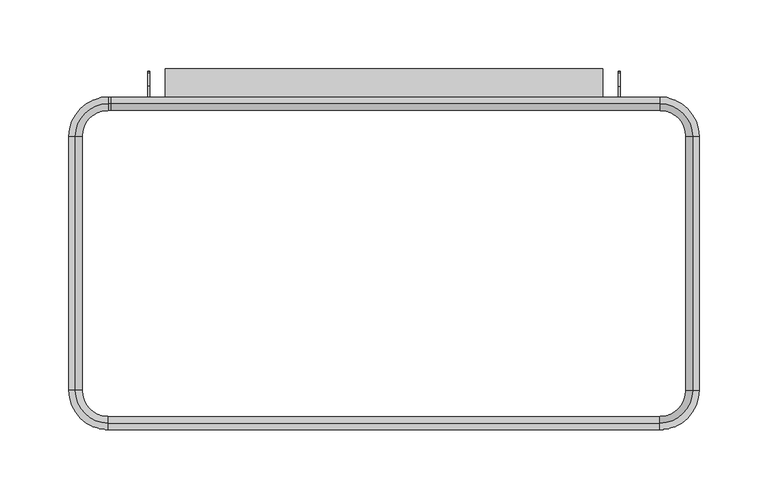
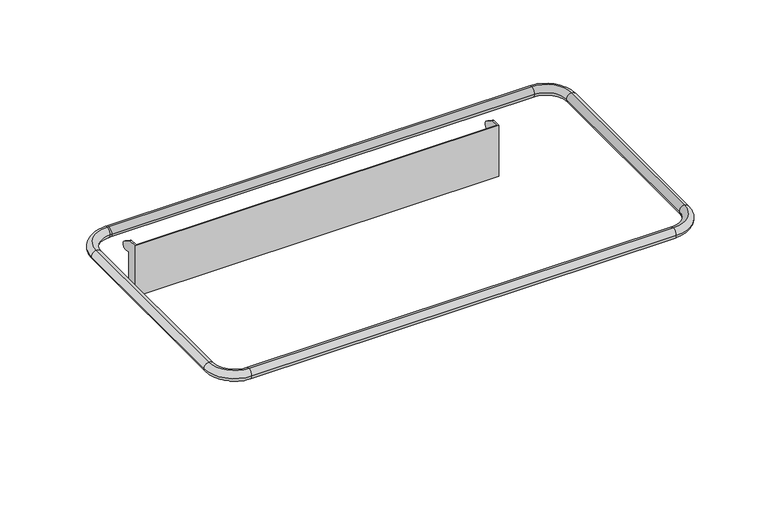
"""IFC4 building model written with IfcOpenShell, lengths in millimetres: furniture geometry."""

from ifc_helpers import new_model, si_unit, point, frame, origin, place, context, project, spatial, circle_curve, ellipse_curve, trimmed, source, transform, mapped, element, save
from ifc_brep_helpers import plane_surface, cylinder_surface, revolved_surface, advanced_brep


def furniture_1b205687(model_context):
    return source(origin(), model_context, "Body", "AdvancedBrep", [
        advanced_brep(
        [(-200.025, 74.6851276, 1258.9192846), (-223.8375, 50.8726276, 1258.9192846), (-219.075, 50.8726276, 1254.1567846), (-200.025, 69.9226276, 1254.1567846), (-200.025, 79.4476276, 1254.1567846), (-228.6, 50.8726276, 1254.1567846), (-200.025, 74.6851276, 1249.3942846), (-223.8375, 50.8726276, 1249.3942846), (-198.2944343, 69.9226276, 1254.1567846), (-198.2944343, 74.6851276, 1258.9192846), (-198.2944343, 79.4476276, 1254.1567846), (-198.2944343, 74.6851276, 1249.3942846), (200.025, 69.9226276, 1254.1567846), (200.025, 74.6851276, 1258.9192846), (200.025, 79.4476276, 1254.1567846), (200.025, 74.6851276, 1249.3942846), (223.8375, 50.8726276, 1258.9192846), (219.075, 50.8726276, 1254.1567846), (228.6, 50.8726276, 1254.1567846), (223.8375, 50.8726276, 1249.3942846), (219.075, -133.2773724, 1254.1567846), (223.8375, -133.2773724, 1258.9192846), (228.6, -133.2773724, 1254.1567846), (223.8375, -133.2773724, 1249.3942846), (200.025, -157.0898724, 1258.9192846), (200.025, -152.3273724, 1254.1567846), (200.025, -161.8523724, 1254.1567846), (200.025, -157.0898724, 1249.3942846), (-200.025, -152.3273724, 1254.1567846), (-200.025, -157.0898724, 1258.9192846), (-200.025, -161.8523724, 1254.1567846), (-200.025, -157.0898724, 1249.3942846), (-223.8375, -133.2773724, 1258.9192846), (-219.075, -133.2773724, 1254.1567846), (-228.6, -133.2773724, 1254.1567846), (-223.8375, -133.2773724, 1249.3942846)],
        [
            (0, 1, circle_curve(frame((-200.025, 50.8726276, 1258.9192846), z_axis=(0.0, 0.0, 1.0), x_axis=(-1.0, 0.0, 0.0)), 23.8125)),
            (1, 2, circle_curve(frame((-223.8375, 50.8726276, 1254.1567846), z_axis=(0.0, 1.0, 0.0), x_axis=(-1.0, 0.0, 0.0)), 4.7625)),
            (2, 3, circle_curve(frame((-200.025, 50.8726276, 1254.1567846), z_axis=(0.0, 0.0, -1.0), x_axis=(-1.0, 0.0, 0.0)), 19.05)),
            (3, 0, circle_curve(frame((-200.025, 74.6851276, 1254.1567846), z_axis=(-1.0, 0.0, 0.0), x_axis=(0.0, 1.0, 0.0)), 4.7625)),
            (4, 5, circle_curve(frame((-200.025, 50.8726276, 1254.1567846), z_axis=(0.0, 0.0, 1.0), x_axis=(-1.0, 0.0, 0.0)), 28.575)),
            (5, 1, circle_curve(frame((-223.8375, 50.8726276, 1254.1567846), z_axis=(0.0, 1.0, 0.0), x_axis=(-1.0, 0.0, 0.0)), 4.7625)),
            (0, 4, circle_curve(frame((-200.025, 74.6851276, 1254.1567846), z_axis=(-1.0, 0.0, 0.0), x_axis=(0.0, 1.0, 0.0)), 4.7625)),
            (6, 7, circle_curve(frame((-200.025, 50.8726276, 1249.3942846), z_axis=(0.0, 0.0, 1.0), x_axis=(-1.0, 0.0, 0.0)), 23.8125)),
            (7, 5, circle_curve(frame((-223.8375, 50.8726276, 1254.1567846), z_axis=(0.0, 1.0, 0.0), x_axis=(-1.0, 0.0, 0.0)), 4.7625)),
            (4, 6, circle_curve(frame((-200.025, 74.6851276, 1254.1567846), z_axis=(-1.0, 0.0, 0.0), x_axis=(0.0, 1.0, 0.0)), 4.7625)),
            (2, 7, circle_curve(frame((-223.8375, 50.8726276, 1254.1567846), z_axis=(0.0, 1.0, 0.0), x_axis=(-1.0, 0.0, 0.0)), 4.7625)),
            (6, 3, circle_curve(frame((-200.025, 74.6851276, 1254.1567846), z_axis=(-1.0, 0.0, 0.0), x_axis=(0.0, 1.0, 0.0)), 4.7625)),
            (3, 8),
            (8, 9, circle_curve(frame((-198.2944343, 74.6851276, 1254.1567846), z_axis=(-1.0, 0.0, 0.0), x_axis=(0.0, 1.0, 0.0)), 4.7625)),
            (9, 0),
            (9, 10, circle_curve(frame((-198.2944343, 74.6851276, 1254.1567846), z_axis=(-1.0, 0.0, 0.0), x_axis=(0.0, 1.0, 0.0)), 4.7625)),
            (10, 4),
            (10, 11, circle_curve(frame((-198.2944343, 74.6851276, 1254.1567846), z_axis=(-1.0, 0.0, 0.0), x_axis=(0.0, 1.0, 0.0)), 4.7625)),
            (11, 6),
            (11, 8, circle_curve(frame((-198.2944343, 74.6851276, 1254.1567846), z_axis=(-1.0, 0.0, 0.0), x_axis=(0.0, 1.0, 0.0)), 4.7625)),
            (8, 12),
            (12, 13, circle_curve(frame((200.025, 74.6851276, 1254.1567846), z_axis=(-1.0, 0.0, 0.0), x_axis=(0.0, 1.0, 0.0)), 4.7625)),
            (13, 9),
            (13, 14, circle_curve(frame((200.025, 74.6851276, 1254.1567846), z_axis=(-1.0, 0.0, 0.0), x_axis=(0.0, 1.0, 0.0)), 4.7625)),
            (14, 10),
            (14, 15, circle_curve(frame((200.025, 74.6851276, 1254.1567846), z_axis=(-1.0, 0.0, 0.0), x_axis=(0.0, 1.0, 0.0)), 4.7625)),
            (15, 11),
            (15, 12, circle_curve(frame((200.025, 74.6851276, 1254.1567846), z_axis=(-1.0, 0.0, 0.0), x_axis=(0.0, 1.0, 0.0)), 4.7625)),
            (16, 13, circle_curve(frame((200.025, 50.8726276, 1258.9192846), z_axis=(0.0, 0.0, 1.0), x_axis=(0.0, 1.0, 0.0)), 23.8125)),
            (12, 17, circle_curve(frame((200.025, 50.8726276, 1254.1567846), z_axis=(0.0, 0.0, -1.0), x_axis=(0.0, 1.0, 0.0)), 19.05)),
            (17, 16, circle_curve(frame((223.8375, 50.8726276, 1254.1567846), z_axis=(0.0, 1.0, 0.0), x_axis=(1.0, 0.0, 0.0)), 4.7625)),
            (18, 14, circle_curve(frame((200.025, 50.8726276, 1254.1567846), z_axis=(0.0, 0.0, 1.0), x_axis=(0.0, 1.0, 0.0)), 28.575)),
            (16, 18, circle_curve(frame((223.8375, 50.8726276, 1254.1567846), z_axis=(0.0, 1.0, 0.0), x_axis=(1.0, 0.0, 0.0)), 4.7625)),
            (19, 15, circle_curve(frame((200.025, 50.8726276, 1249.3942846), z_axis=(0.0, 0.0, 1.0), x_axis=(0.0, 1.0, 0.0)), 23.8125)),
            (18, 19, circle_curve(frame((223.8375, 50.8726276, 1254.1567846), z_axis=(0.0, 1.0, 0.0), x_axis=(1.0, 0.0, 0.0)), 4.7625)),
            (19, 17, circle_curve(frame((223.8375, 50.8726276, 1254.1567846), z_axis=(0.0, 1.0, 0.0), x_axis=(1.0, 0.0, 0.0)), 4.7625)),
            (17, 20),
            (20, 21, circle_curve(frame((223.8375, -133.2773724, 1254.1567846), z_axis=(0.0, 1.0, 0.0), x_axis=(1.0, 0.0, 0.0)), 4.7625)),
            (21, 16),
            (21, 22, circle_curve(frame((223.8375, -133.2773724, 1254.1567846), z_axis=(0.0, 1.0, 0.0), x_axis=(1.0, 0.0, 0.0)), 4.7625)),
            (22, 18),
            (22, 23, circle_curve(frame((223.8375, -133.2773724, 1254.1567846), z_axis=(0.0, 1.0, 0.0), x_axis=(1.0, 0.0, 0.0)), 4.7625)),
            (23, 19),
            (23, 20, circle_curve(frame((223.8375, -133.2773724, 1254.1567846), z_axis=(0.0, 1.0, 0.0), x_axis=(1.0, 0.0, 0.0)), 4.7625)),
            (24, 21, circle_curve(frame((200.025, -133.2773724, 1258.9192846), z_axis=(0.0, 0.0, 1.0), x_axis=(1.0, 0.0, 0.0)), 23.8125)),
            (20, 25, circle_curve(frame((200.025, -133.2773724, 1254.1567846), z_axis=(0.0, 0.0, -1.0), x_axis=(1.0, 0.0, 0.0)), 19.05)),
            (25, 24, circle_curve(frame((200.025, -157.0898724, 1254.1567846), z_axis=(1.0, 0.0, 0.0), x_axis=(0.0, -1.0, 0.0)), 4.7625)),
            (26, 22, circle_curve(frame((200.025, -133.2773724, 1254.1567846), z_axis=(0.0, 0.0, 1.0), x_axis=(1.0, 0.0, 0.0)), 28.575)),
            (24, 26, circle_curve(frame((200.025, -157.0898724, 1254.1567846), z_axis=(1.0, 0.0, 0.0), x_axis=(0.0, -1.0, 0.0)), 4.7625)),
            (27, 23, circle_curve(frame((200.025, -133.2773724, 1249.3942846), z_axis=(0.0, 0.0, 1.0), x_axis=(1.0, 0.0, 0.0)), 23.8125)),
            (26, 27, circle_curve(frame((200.025, -157.0898724, 1254.1567846), z_axis=(1.0, 0.0, 0.0), x_axis=(0.0, -1.0, 0.0)), 4.7625)),
            (27, 25, circle_curve(frame((200.025, -157.0898724, 1254.1567846), z_axis=(1.0, 0.0, 0.0), x_axis=(0.0, -1.0, 0.0)), 4.7625)),
            (25, 28),
            (28, 29, circle_curve(frame((-200.025, -157.0898724, 1254.1567846), z_axis=(1.0, 0.0, 0.0), x_axis=(0.0, -1.0, 0.0)), 4.7625)),
            (29, 24),
            (29, 30, circle_curve(frame((-200.025, -157.0898724, 1254.1567846), z_axis=(1.0, 0.0, 0.0), x_axis=(0.0, -1.0, 0.0)), 4.7625)),
            (30, 26),
            (30, 31, circle_curve(frame((-200.025, -157.0898724, 1254.1567846), z_axis=(1.0, 0.0, 0.0), x_axis=(0.0, -1.0, 0.0)), 4.7625)),
            (31, 27),
            (31, 28, circle_curve(frame((-200.025, -157.0898724, 1254.1567846), z_axis=(1.0, 0.0, 0.0), x_axis=(0.0, -1.0, 0.0)), 4.7625)),
            (32, 29, circle_curve(frame((-200.025, -133.2773724, 1258.9192846), z_axis=(0.0, 0.0, 1.0), x_axis=(0.0, -1.0, 0.0)), 23.8125)),
            (28, 33, circle_curve(frame((-200.025, -133.2773724, 1254.1567846), z_axis=(0.0, 0.0, -1.0), x_axis=(0.0, -1.0, 0.0)), 19.05)),
            (33, 32, circle_curve(frame((-223.8375, -133.2773724, 1254.1567846), z_axis=(0.0, -1.0, 0.0), x_axis=(-1.0, 0.0, 0.0)), 4.7625)),
            (34, 30, circle_curve(frame((-200.025, -133.2773724, 1254.1567846), z_axis=(0.0, 0.0, 1.0), x_axis=(0.0, -1.0, 0.0)), 28.575)),
            (32, 34, circle_curve(frame((-223.8375, -133.2773724, 1254.1567846), z_axis=(0.0, -1.0, 0.0), x_axis=(-1.0, 0.0, 0.0)), 4.7625)),
            (35, 31, circle_curve(frame((-200.025, -133.2773724, 1249.3942846), z_axis=(0.0, 0.0, 1.0), x_axis=(0.0, -1.0, 0.0)), 23.8125)),
            (34, 35, circle_curve(frame((-223.8375, -133.2773724, 1254.1567846), z_axis=(0.0, -1.0, 0.0), x_axis=(-1.0, 0.0, 0.0)), 4.7625)),
            (35, 33, circle_curve(frame((-223.8375, -133.2773724, 1254.1567846), z_axis=(0.0, -1.0, 0.0), x_axis=(-1.0, 0.0, 0.0)), 4.7625)),
            (33, 2),
            (1, 32),
            (5, 34),
            (7, 35),
        ],
        [
            revolved_surface(trimmed(ellipse_curve(frame((-223.8375, 50.8726276, 1254.1567846), z_axis=(0.0, -1.0, 0.0), x_axis=(-1.0, 0.0, 0.0)), 4.7625, 4.7625), [point((-219.075, 50.8726276, 1254.1567846))], [point((-223.8375, 50.8726276, 1258.9192846))], True, "CARTESIAN"), (-200.025, 50.8726276, 0.0), (0.0, 0.0, -1.0)),
            revolved_surface(trimmed(ellipse_curve(frame((-223.8375, 50.8726276, 1254.1567846), z_axis=(0.0, -1.0, 0.0), x_axis=(-1.0, 0.0, 0.0)), 4.7625, 4.7625), [point((-223.8375, 50.8726276, 1258.9192846))], [point((-228.6, 50.8726276, 1254.1567846))], True, "CARTESIAN"), (-200.025, 50.8726276, 0.0), (0.0, 0.0, -1.0)),
            revolved_surface(trimmed(ellipse_curve(frame((-223.8375, 50.8726276, 1254.1567846), z_axis=(0.0, -1.0, 0.0), x_axis=(-1.0, 0.0, 0.0)), 4.7625, 4.7625), [point((-228.6, 50.8726276, 1254.1567846))], [point((-223.8375, 50.8726276, 1249.3942846))], True, "CARTESIAN"), (-200.025, 50.8726276, 0.0), (0.0, 0.0, -1.0)),
            revolved_surface(trimmed(ellipse_curve(frame((-223.8375, 50.8726276, 1254.1567846), z_axis=(0.0, -1.0, 0.0), x_axis=(-1.0, 0.0, 0.0)), 4.7625, 4.7625), [point((-223.8375, 50.8726276, 1249.3942846))], [point((-219.075, 50.8726276, 1254.1567846))], True, "CARTESIAN"), (-200.025, 50.8726276, 0.0), (0.0, 0.0, -1.0)),
            cylinder_surface(frame((-200.025, 74.6851276, 1254.1567846), z_axis=(-1.0, 0.0, 0.0), x_axis=(0.0, 1.0, 0.0)), 4.7625),
            cylinder_surface(frame((-198.2944343, 74.6851276, 1254.1567846), z_axis=(-1.0, 0.0, 0.0), x_axis=(0.0, 1.0, 0.0)), 4.7625),
            revolved_surface(trimmed(ellipse_curve(frame((200.025, 74.6851276, 1254.1567846), z_axis=(-1.0, 0.0, 0.0), x_axis=(0.0, 1.0, 0.0)), 4.7625, 4.7625), [point((200.025, 69.9226276, 1254.1567846))], [point((200.025, 74.6851276, 1258.9192846))], True, "CARTESIAN"), (200.025, 50.8726276, 0.0), (0.0, 0.0, -1.0)),
            revolved_surface(trimmed(ellipse_curve(frame((200.025, 74.6851276, 1254.1567846), z_axis=(-1.0, 0.0, 0.0), x_axis=(0.0, 1.0, 0.0)), 4.7625, 4.7625), [point((200.025, 74.6851276, 1258.9192846))], [point((200.025, 79.4476276, 1254.1567846))], True, "CARTESIAN"), (200.025, 50.8726276, 0.0), (0.0, 0.0, -1.0)),
            revolved_surface(trimmed(ellipse_curve(frame((200.025, 74.6851276, 1254.1567846), z_axis=(-1.0, 0.0, 0.0), x_axis=(0.0, 1.0, 0.0)), 4.7625, 4.7625), [point((200.025, 79.4476276, 1254.1567846))], [point((200.025, 74.6851276, 1249.3942846))], True, "CARTESIAN"), (200.025, 50.8726276, 0.0), (0.0, 0.0, -1.0)),
            revolved_surface(trimmed(ellipse_curve(frame((200.025, 74.6851276, 1254.1567846), z_axis=(-1.0, 0.0, 0.0), x_axis=(0.0, 1.0, 0.0)), 4.7625, 4.7625), [point((200.025, 74.6851276, 1249.3942846))], [point((200.025, 69.9226276, 1254.1567846))], True, "CARTESIAN"), (200.025, 50.8726276, 0.0), (0.0, 0.0, -1.0)),
            cylinder_surface(frame((223.8375, 50.8726276, 1254.1567846), z_axis=(0.0, 1.0, 0.0), x_axis=(1.0, 0.0, 0.0)), 4.7625),
            revolved_surface(trimmed(ellipse_curve(frame((223.8375, -133.2773724, 1254.1567846), z_axis=(0.0, 1.0, 0.0), x_axis=(1.0, 0.0, 0.0)), 4.7625, 4.7625), [point((219.075, -133.2773724, 1254.1567846))], [point((223.8375, -133.2773724, 1258.9192846))], True, "CARTESIAN"), (200.025, -133.2773724, 0.0), (0.0, 0.0, -1.0)),
            revolved_surface(trimmed(ellipse_curve(frame((223.8375, -133.2773724, 1254.1567846), z_axis=(0.0, 1.0, 0.0), x_axis=(1.0, 0.0, 0.0)), 4.7625, 4.7625), [point((223.8375, -133.2773724, 1258.9192846))], [point((228.6, -133.2773724, 1254.1567846))], True, "CARTESIAN"), (200.025, -133.2773724, 0.0), (0.0, 0.0, -1.0)),
            revolved_surface(trimmed(ellipse_curve(frame((223.8375, -133.2773724, 1254.1567846), z_axis=(0.0, 1.0, 0.0), x_axis=(1.0, 0.0, 0.0)), 4.7625, 4.7625), [point((228.6, -133.2773724, 1254.1567846))], [point((223.8375, -133.2773724, 1249.3942846))], True, "CARTESIAN"), (200.025, -133.2773724, 0.0), (0.0, 0.0, -1.0)),
            revolved_surface(trimmed(ellipse_curve(frame((223.8375, -133.2773724, 1254.1567846), z_axis=(0.0, 1.0, 0.0), x_axis=(1.0, 0.0, 0.0)), 4.7625, 4.7625), [point((223.8375, -133.2773724, 1249.3942846))], [point((219.075, -133.2773724, 1254.1567846))], True, "CARTESIAN"), (200.025, -133.2773724, 0.0), (0.0, 0.0, -1.0)),
            cylinder_surface(frame((200.025, -157.0898724, 1254.1567846), z_axis=(1.0, 0.0, 0.0), x_axis=(0.0, -1.0, 0.0)), 4.7625),
            revolved_surface(trimmed(ellipse_curve(frame((-200.025, -157.0898724, 1254.1567846), z_axis=(1.0, 0.0, 0.0), x_axis=(0.0, -1.0, 0.0)), 4.7625, 4.7625), [point((-200.025, -152.3273724, 1254.1567846))], [point((-200.025, -157.0898724, 1258.9192846))], True, "CARTESIAN"), (-200.025, -133.2773724, 0.0), (0.0, 0.0, -1.0)),
            revolved_surface(trimmed(ellipse_curve(frame((-200.025, -157.0898724, 1254.1567846), z_axis=(1.0, 0.0, 0.0), x_axis=(0.0, -1.0, 0.0)), 4.7625, 4.7625), [point((-200.025, -157.0898724, 1258.9192846))], [point((-200.025, -161.8523724, 1254.1567846))], True, "CARTESIAN"), (-200.025, -133.2773724, 0.0), (0.0, 0.0, -1.0)),
            revolved_surface(trimmed(ellipse_curve(frame((-200.025, -157.0898724, 1254.1567846), z_axis=(1.0, 0.0, 0.0), x_axis=(0.0, -1.0, 0.0)), 4.7625, 4.7625), [point((-200.025, -161.8523724, 1254.1567846))], [point((-200.025, -157.0898724, 1249.3942846))], True, "CARTESIAN"), (-200.025, -133.2773724, 0.0), (0.0, 0.0, -1.0)),
            revolved_surface(trimmed(ellipse_curve(frame((-200.025, -157.0898724, 1254.1567846), z_axis=(1.0, 0.0, 0.0), x_axis=(0.0, -1.0, 0.0)), 4.7625, 4.7625), [point((-200.025, -157.0898724, 1249.3942846))], [point((-200.025, -152.3273724, 1254.1567846))], True, "CARTESIAN"), (-200.025, -133.2773724, 0.0), (0.0, 0.0, -1.0)),
            cylinder_surface(frame((-223.8375, -133.2773724, 1254.1567846), z_axis=(0.0, -1.0, 0.0), x_axis=(-1.0, 0.0, 0.0)), 4.7625),
        ],
        [
            (0, [[1, 2, 3, 4]]),
            (1, [[5, 6, -1, 7]]),
            (2, [[8, 9, -5, 10]]),
            (3, [[-3, 11, -8, 12]]),
            (4, [[-4, 13, 14, 15]]),
            (4, [[-7, -15, 16, 17]]),
            (4, [[-10, -17, 18, 19]]),
            (4, [[-12, -19, 20, -13]]),
            (5, [[-14, 21, 22, 23]]),
            (5, [[-16, -23, 24, 25]]),
            (5, [[-18, -25, 26, 27]]),
            (5, [[-20, -27, 28, -21]]),
            (6, [[29, -22, 30, 31]]),
            (7, [[32, -24, -29, 33]]),
            (8, [[34, -26, -32, 35]]),
            (9, [[-30, -28, -34, 36]]),
            (10, [[-31, 37, 38, 39]]),
            (10, [[-33, -39, 40, 41]]),
            (10, [[-35, -41, 42, 43]]),
            (10, [[-36, -43, 44, -37]]),
            (11, [[45, -38, 46, 47]]),
            (12, [[48, -40, -45, 49]]),
            (13, [[50, -42, -48, 51]]),
            (14, [[-46, -44, -50, 52]]),
            (15, [[-47, 53, 54, 55]]),
            (15, [[-49, -55, 56, 57]]),
            (15, [[-51, -57, 58, 59]]),
            (15, [[-52, -59, 60, -53]]),
            (16, [[61, -54, 62, 63]]),
            (17, [[64, -56, -61, 65]]),
            (18, [[66, -58, -64, 67]]),
            (19, [[-62, -60, -66, 68]]),
            (20, [[-63, 69, -2, 70]]),
            (20, [[-65, -70, -6, 71]]),
            (20, [[-67, -71, -9, 72]]),
            (20, [[-68, -72, -11, -69]]),
        ],
    ),
        advanced_brep(
        [(169.8625, 87.1833453, 1227.9617646), (169.8625, 96.7718787, 1221.3589446), (169.8625, 93.062402, 1214.8427908), (169.8625, 88.7708455, 1216.0555143), (169.8625, 88.7708455, 1186.6867662), (169.8625, 98.2958455, 1186.6867662), (169.8625, 98.2958455, 1177.1617662), (169.8625, 79.4476276, 1177.1617662), (169.8625, 79.4476276, 1227.9617646), (171.45, 87.1833453, 1227.9617646), (171.45, 78.4520954, 1227.9617646), (171.45, 78.4520954, 1177.1617662), (171.45, 98.2958455, 1177.1617662), (171.45, 98.2958455, 1186.6867662), (171.45, 88.7708455, 1186.6867662), (171.45, 88.7708455, 1216.0555143), (171.45, 93.062402, 1214.8427908), (171.45, 96.7718787, 1221.3589446), (-171.45, 78.4520954, 1177.1617662), (-171.45, 98.2958455, 1177.1617662), (-169.8625, 98.2958455, 1177.1617662), (-169.8625, 79.4476276, 1177.1617662), (-171.45, 78.4520954, 1227.9617646), (-169.8625, 79.4476276, 1227.9617646), (-169.8625, 87.1833453, 1227.9617646), (-171.45, 87.1833453, 1227.9617646), (-158.75, 79.4476276, 1181.1317862), (-158.75, 79.4476276, 1179.5442862), (158.75, 79.4476276, 1179.5442862), (158.75, 79.4476276, 1181.1317862), (-158.75, 99.8833455, 1181.1317862), (-158.75, 99.8833455, 1179.5442862), (158.75, 99.8833455, 1181.1317862), (158.75, 99.8833455, 1179.5442862), (-171.45, 96.7718787, 1221.3589446), (-171.45, 93.062402, 1214.8427908), (-171.45, 88.7708455, 1216.0555143), (-171.45, 88.7708455, 1186.6867662), (-171.45, 98.2958455, 1186.6867662), (-169.8625, 98.2958455, 1186.6867662), (-169.8625, 88.7708455, 1186.6867662), (-169.8625, 88.7708455, 1216.0555143), (-169.8625, 93.062402, 1214.8427908), (-169.8625, 96.7718787, 1221.3589446)],
        [
            (0, 1),
            (1, 2, circle_curve(frame((169.8625, 94.1125186, 1218.5589179), z_axis=(-1.0, 0.0, 0.0), x_axis=(0.0, 1.0, 0.0)), 3.8616507)),
            (2, 3),
            (3, 4),
            (4, 5),
            (5, 6),
            (6, 7),
            (7, 8),
            (8, 0),
            (9, 10),
            (10, 11),
            (11, 12),
            (12, 13),
            (13, 14),
            (14, 15),
            (15, 16),
            (16, 17, circle_curve(frame((171.45, 94.1125186, 1218.5589179), z_axis=(1.0, 0.0, 0.0), x_axis=(0.0, 1.0, 0.0)), 3.8616507)),
            (17, 9),
            (0, 9),
            (17, 1),
            (16, 2),
            (15, 3),
            (14, 4),
            (13, 5),
            (12, 6),
            (11, 18),
            (18, 19),
            (19, 20),
            (20, 21),
            (21, 7),
            (10, 22),
            (22, 18),
            (8, 23),
            (23, 24),
            (24, 25),
            (25, 22),
            (21, 23),
            (26, 27),
            (27, 28),
            (28, 29),
            (29, 26),
            (30, 31),
            (31, 27),
            (26, 30),
            (32, 29),
            (28, 33),
            (33, 32),
            (30, 32),
            (33, 31),
            (25, 34),
            (34, 35, circle_curve(frame((-171.45, 94.1125186, 1218.5589179), z_axis=(-1.0, 0.0, 0.0), x_axis=(0.0, 1.0, 0.0)), 3.8616507)),
            (35, 36),
            (36, 37),
            (37, 38),
            (38, 19),
            (20, 39),
            (39, 40),
            (40, 41),
            (41, 42),
            (42, 43, circle_curve(frame((-169.8625, 94.1125186, 1218.5589179), z_axis=(1.0, 0.0, 0.0), x_axis=(0.0, 1.0, 0.0)), 3.8616507)),
            (43, 24),
            (43, 34),
            (42, 35),
            (41, 36),
            (40, 37),
            (39, 38),
        ],
        [
            plane_surface(frame((169.8625, 78.4520954, 0.0), z_axis=(-1.0, 0.0, 0.0), x_axis=(0.0, 0.0, 1.0))),
            plane_surface(frame((171.45, 78.4520954, 0.0), z_axis=(1.0, 0.0, 0.0), x_axis=(0.0, 0.0, 1.0))),
            plane_surface(frame((169.8625, 87.1833453, 1227.9617646), z_axis=(0.0, 0.5671529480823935, 0.8236124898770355), x_axis=(1.0, 0.0, 0.0))),
            cylinder_surface(frame((169.8625, 94.1125186, 1218.5589179), z_axis=(-1.0, 0.0, 0.0), x_axis=(0.0, 1.0, 0.0)), 3.8616507),
            plane_surface(frame((169.8625, 93.062402, 1214.8427908), z_axis=(0.0, -0.2719346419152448, -0.9623157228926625), x_axis=(1.0, 0.0, 0.0))),
            plane_surface(frame((169.8625, 88.7708455, 1216.0555143), z_axis=(0.0, 1.0, 0.0), x_axis=(1.0, 0.0, 0.0))),
            plane_surface(frame((169.8625, 88.7708455, 1186.6867662), z_axis=(0.0, 0.0, 1.0), x_axis=(1.0, 0.0, 0.0))),
            plane_surface(frame((169.8625, 98.2958455, 1186.6867662), z_axis=(0.0, 1.0, 0.0), x_axis=(1.0, 0.0, 0.0))),
            plane_surface(frame((169.8625, 98.2958455, 1177.1617662), z_axis=(0.0, 0.0, -1.0), x_axis=(1.0, 0.0, 0.0))),
            plane_surface(frame((169.8625, 78.4520954, 1177.1617662), z_axis=(0.0, -1.0, 0.0), x_axis=(1.0, 0.0, 0.0))),
            plane_surface(frame((169.8625, 78.4520954, 1227.9617646), z_axis=(0.0, 0.0, 1.0), x_axis=(1.0, 0.0, 0.0))),
            plane_surface(frame((-169.8625, 79.4476276, 1227.9617646), z_axis=(0.0, 1.0, 0.0), x_axis=(1.0, 0.0, 0.0))),
            plane_surface(frame((-158.75, 79.4476276, 0.0), z_axis=(-1.0, 0.0, 0.0), x_axis=(0.0, 0.0, 1.0))),
            plane_surface(frame((158.75, 79.4476276, 0.0), z_axis=(1.0, 0.0, 0.0), x_axis=(0.0, 0.0, 1.0))),
            plane_surface(frame((-158.75, 99.8833455, 1181.1317862), z_axis=(0.0, 1.0, 0.0), x_axis=(1.0, 0.0, 0.0))),
            plane_surface(frame((-158.75, 99.8833455, 1179.5442862), z_axis=(0.0, 0.0, -1.0), x_axis=(1.0, 0.0, 0.0))),
            plane_surface(frame((-158.75, 79.4476276, 1181.1317862), z_axis=(0.0, 0.0, 1.0), x_axis=(1.0, 0.0, 0.0))),
            plane_surface(frame((-171.45, 78.4520954, 0.0), z_axis=(-1.0, 0.0, 0.0), x_axis=(0.0, 0.0, 1.0))),
            plane_surface(frame((-169.8625, 78.4520954, 0.0), z_axis=(1.0, 0.0, 0.0), x_axis=(0.0, 0.0, 1.0))),
            plane_surface(frame((-171.45, 87.1833453, 1227.9617646), z_axis=(0.0, 0.5671529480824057, 0.8236124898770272), x_axis=(1.0, 0.0, 0.0))),
            cylinder_surface(frame((-171.45, 94.1125186, 1218.5589179), z_axis=(-1.0, 0.0, 0.0), x_axis=(0.0, 1.0, 0.0)), 3.8616507),
            plane_surface(frame((-171.45, 93.062402, 1214.8427908), z_axis=(0.0, -0.2719346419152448, -0.9623157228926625), x_axis=(1.0, 0.0, 0.0))),
            plane_surface(frame((-171.45, 88.7708455, 1216.0555143), z_axis=(0.0, 1.0, 0.0), x_axis=(1.0, 0.0, 0.0))),
            plane_surface(frame((-171.45, 88.7708455, 1186.6867662), z_axis=(0.0, 0.0, 1.0), x_axis=(1.0, 0.0, 0.0))),
            plane_surface(frame((-171.45, 98.2958455, 1186.6867662), z_axis=(0.0, 1.0, 0.0), x_axis=(1.0, 0.0, 0.0))),
        ],
        [
            (0, [[1, 2, 3, 4, 5, 6, 7, 8, 9]]),
            (1, [[10, 11, 12, 13, 14, 15, 16, 17, 18]]),
            (2, [[-1, 19, -18, 20]]),
            (3, [[-2, -20, -17, 21]]),
            (4, [[-3, -21, -16, 22]]),
            (5, [[-4, -22, -15, 23]]),
            (6, [[-5, -23, -14, 24]]),
            (7, [[-6, -24, -13, 25]]),
            (8, [[-12, 26, 27, 28, 29, 30, -7, -25]]),
            (9, [[-26, -11, 31, 32]]),
            (10, [[-31, -10, -19, -9, 33, 34, 35, 36]]),
            (11, [[-33, -8, -30, 37], [38, 39, 40, 41]]),
            (12, [[42, 43, -38, 44]]),
            (13, [[45, -40, 46, 47]]),
            (14, [[-42, 48, -47, 49]]),
            (15, [[-43, -49, -46, -39]]),
            (16, [[-44, -41, -45, -48]]),
            (17, [[50, 51, 52, 53, 54, 55, -27, -32, -36]]),
            (18, [[56, 57, 58, 59, 60, 61, -34, -37, -29]]),
            (19, [[-50, -35, -61, 62]]),
            (20, [[-51, -62, -60, 63]]),
            (21, [[-52, -63, -59, 64]]),
            (22, [[-53, -64, -58, 65]]),
            (23, [[-54, -65, -57, 66]]),
            (24, [[-55, -66, -56, -28]]),
        ],
    ),
    ])


if __name__ == "__main__":
    model = new_model("IFC4")
    model_context = context("Model", 3, world=origin())
    ifc_project = project(units=[si_unit("LENGTHUNIT", "METRE", prefix="MILLI")], contexts=[model_context])
    site = spatial("IfcSite", under=ifc_project)
    building = spatial("IfcBuilding", under=site)
    placement = place(None, origin())
    furniture_shape = furniture_1b205687(model_context)
    element("IfcFurniture", 1, ObjectType="HermanMiller_Carts_CT720_SupplyBasket : 5\"H x 9\"D x 18\"W Supply Basket", at=placement, inside=building, context=model_context, shape_type="MappedRepresentation", body=[
        mapped(furniture_shape, transform((0.0, 0.0, 0.0), x_axis=(1.0, 0.0, 0.0), y_axis=(0.0, 1.0, 0.0), z_axis=(0.0, 0.0, 1.0))),
    ])
    save(model, "model.ifc")
